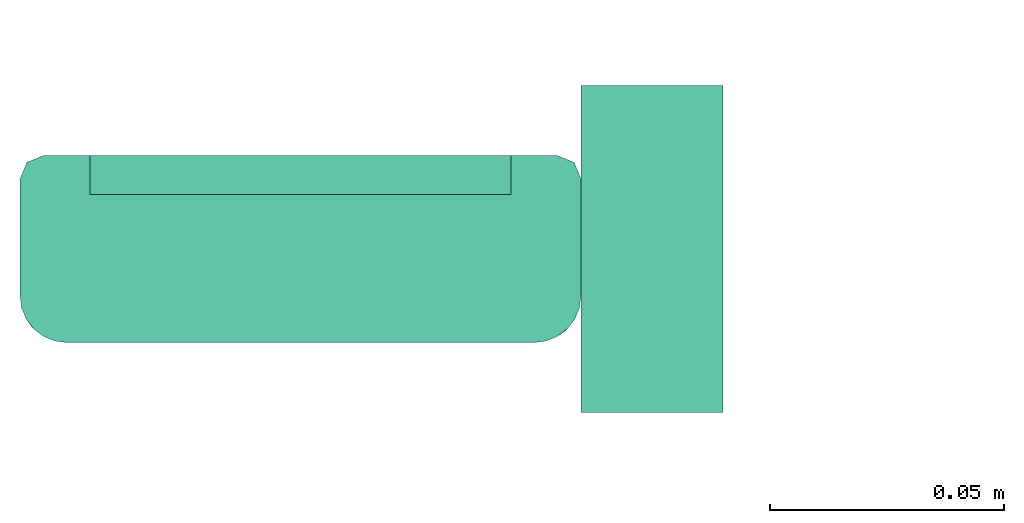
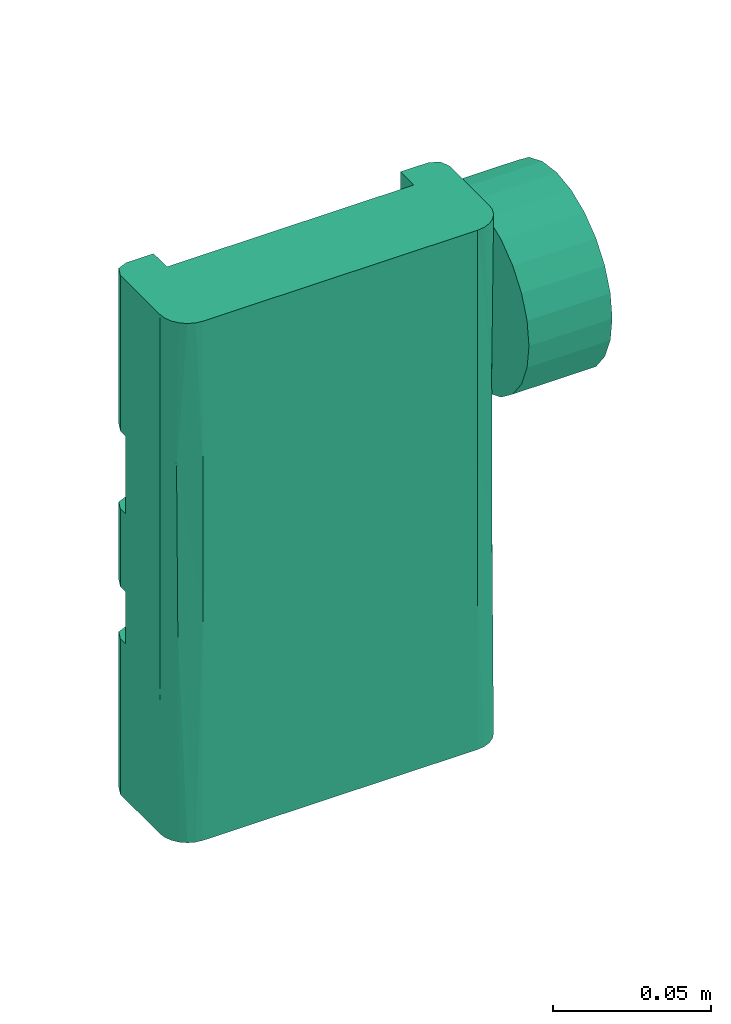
# One storey, part 164 of 166: 1 flow terminal.
"""IFC2X3 building model written with IfcOpenShell, lengths in metres."""

from ifc_helpers import new_model, entity, si_unit, converted_unit, direction, frame, origin, place, context, subcontext, project, spatial, faceted_brep, source, transform, mapped, material, material_list, type_object, type_shapes, element, save


model = new_model("IFC2X3")

# Units and contexts
model_context = context("Model", 3, precision=1e-05, world=origin(), true_north=direction((6.123233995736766e-17, 1.0)))
body_context = subcontext(model_context, "Body", "Model", "MODEL_VIEW")
ifc_project = project(units=[si_unit("LENGTHUNIT", "METRE"), converted_unit("PLANEANGLEUNIT", "DEGREE", entity("IfcPlaneAngleMeasure", 0.017453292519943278), si_unit("PLANEANGLEUNIT", "RADIAN"), dimensions=[0, 0, 0, 0, 0, 0, 0]), si_unit("AREAUNIT", "SQUARE_METRE")], contexts=[model_context])

# Site, building, storey
site_placement = place(None, origin())
site = spatial("IfcSite", under=ifc_project, at=site_placement, Name="Default", CompositionType="ELEMENT")
building_placement = place(site_placement, origin())
building = spatial("IfcBuilding", under=site, at=building_placement, Name="CASA DE ACOLHIDA PARA IDOSOS", CompositionType="ELEMENT")
storey_placement = place(building_placement, frame((0.0, 0.0, -1.7499999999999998)))
storey = spatial("IfcBuildingStorey", under=building, at=storey_placement, Name="IMPLANTAÇÃO DRENAGEM", CompositionType="ELEMENT", Elevation=-1.7499999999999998)

# Flow terminal
ifc_material_1 = material(Name="Black")
ifc_material_2 = material(Name="Blue")
ifc_material_list = material_list([ifc_material_1, ifc_material_2])
electric_appliance_type = type_object("IfcElectricApplianceType", Name="Controller_TBOS-BT:Sensor de Chuva", PredefinedType="NOTDEFINED", material=ifc_material_list)
shared_shape = source(origin(), body_context, "Body", "Brep", [
    faceted_brep([(0.054999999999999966, -0.019999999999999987, 0.06), (-0.055, -0.019999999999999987, 0.06000000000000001), (-0.05500000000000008, -0.019999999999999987, 0.03903844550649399), (-0.055, -0.019999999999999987, 0.0), (0.054999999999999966, -0.019999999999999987, 0.0), (0.054999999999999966, -0.019999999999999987, 0.02096155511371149), (0.054999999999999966, -0.019999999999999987, 0.10999999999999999), (-0.055, -0.019999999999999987, 0.11), (-0.055, -0.019999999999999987, 0.07999999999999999), (0.054999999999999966, -0.019999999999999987, 0.07999999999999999), (-0.045000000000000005, -0.019999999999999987, 0.2), (-0.05500000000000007, -0.019999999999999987, 0.19999999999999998), (-0.05500000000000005, -0.019999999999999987, 0.16096156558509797), (-0.055000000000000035, -0.019999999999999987, 0.13999999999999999), (0.010868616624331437, -0.019999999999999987, 0.13999999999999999), (0.011379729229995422, -0.019999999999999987, 0.1438822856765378), (0.012878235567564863, -0.019999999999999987, 0.1475), (0.01526201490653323, -0.019999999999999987, 0.1506066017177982), (0.01836861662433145, -0.019999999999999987, 0.15299038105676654), (0.021986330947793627, -0.019999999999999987, 0.154488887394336), (0.025868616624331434, -0.019999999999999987, 0.155), (0.02975090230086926, -0.019999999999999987, 0.154488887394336), (0.03336861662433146, -0.019999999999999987, 0.15299038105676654), (0.03647521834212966, -0.019999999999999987, 0.1506066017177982), (0.038858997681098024, -0.019999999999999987, 0.1475), (0.040357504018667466, -0.019999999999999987, 0.1438822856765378), (0.040868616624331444, -0.019999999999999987, 0.13999999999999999), (0.054999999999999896, -0.019999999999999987, 0.13999999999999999), (0.054999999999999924, -0.019999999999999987, 0.16096155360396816), (0.054999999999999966, -0.019999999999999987, 0.19999999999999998), (0.045000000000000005, -0.019999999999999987, 0.2), (0.045000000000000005, -0.019999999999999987, 0.17500000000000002), (-0.045000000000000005, -0.019999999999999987, 0.17500000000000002), (-0.05853553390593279, -0.01853553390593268, 0.0), (-0.06, -0.014999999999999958, 0.020961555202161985), (-0.06, -0.014999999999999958, 0.0), (-0.058535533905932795, -0.01853553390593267, 0.13999999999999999), (-0.058535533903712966, -0.018535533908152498, 0.16910427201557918), (-0.05853553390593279, -0.01853553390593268, 0.19999999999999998), (-0.06, -0.014999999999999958, 0.19999999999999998), (-0.06, -0.014999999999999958, 0.1609615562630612), (-0.06, -0.014999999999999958, 0.13999999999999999), (-0.06, -0.014999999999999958, 0.10999999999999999), (-0.06, -0.014999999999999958, 0.07999999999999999), (-0.058535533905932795, -0.01853553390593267, 0.07999999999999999), (-0.058535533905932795, -0.01853553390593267, 0.10999999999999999), (-0.05855559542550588, -0.018515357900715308, 0.030625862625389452), (-0.058535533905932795, -0.01853553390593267, 0.06), (-0.06, -0.014999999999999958, 0.060000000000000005), (0.05853553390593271, -0.01853553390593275, 0.0), (0.05853553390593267, -0.018535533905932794, 0.13999999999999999), (0.05853553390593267, -0.018535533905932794, 0.07999999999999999), (0.05853553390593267, -0.018535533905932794, 0.10999999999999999), (0.05853553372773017, -0.01853553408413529, 0.029104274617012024), (0.06, -0.015000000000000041, 0.02096155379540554), (0.06, -0.015000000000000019, 0.0), (0.06, -0.015000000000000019, 0.17903845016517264), (0.06, -0.015000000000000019, 0.19999999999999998), (0.05853553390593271, -0.01853553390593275, 0.19999999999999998), (0.06, -0.015000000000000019, 0.07999999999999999), (0.06, -0.015000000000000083, 0.10999999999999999), (0.05853553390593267, -0.018535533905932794, 0.06), (0.06, -0.015000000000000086, 0.06), (0.06, -0.011622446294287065, 0.06), (0.06, -0.011622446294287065, 0.07999999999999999), (-0.06, -0.011622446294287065, 0.07999999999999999), (-0.06, -0.011622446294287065, 0.06), (0.045000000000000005, -0.011622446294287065, 0.17500000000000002), (0.045000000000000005, -0.011622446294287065, 0.2), (-0.045000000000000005, -0.011622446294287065, 0.2), (-0.045000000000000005, -0.011622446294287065, 0.17500000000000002), (0.015262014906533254, -0.011622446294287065, 0.15060660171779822), (0.01287823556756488, -0.011622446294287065, 0.14750000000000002), (0.011379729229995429, -0.011622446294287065, 0.14388228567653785), (0.010868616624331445, -0.011622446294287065, 0.13999999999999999), (-0.06, -0.011622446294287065, 0.13999999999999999), (-0.06, -0.011622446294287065, 0.10999999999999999), (0.06, -0.011622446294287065, 0.10999999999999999), (0.06, -0.011622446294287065, 0.13999999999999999), (0.040868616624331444, -0.011622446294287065, 0.13999999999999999), (0.040357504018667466, -0.011622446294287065, 0.1438822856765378), (0.038858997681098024, -0.011622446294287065, 0.14749999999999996), (0.03647521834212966, -0.011622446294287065, 0.1506066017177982), (0.03336861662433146, -0.011622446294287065, 0.15299038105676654), (0.029750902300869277, -0.011622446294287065, 0.154488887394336), (0.02586861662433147, -0.011622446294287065, 0.155), (0.02198633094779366, -0.011622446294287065, 0.15448888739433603), (0.018368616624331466, -0.011622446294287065, 0.1529903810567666), (0.058515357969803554, -0.018555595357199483, 0.17062586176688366), (0.06, -0.015000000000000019, 0.13999999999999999), (0.06, 0.009999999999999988, 0.2), (0.05965925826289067, 0.012588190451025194, 0.2), (0.05866025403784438, 0.014999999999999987, 0.2), (0.057071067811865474, 0.017071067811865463, 0.2), (0.055, 0.01866025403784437, 0.2), (0.052588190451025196, 0.019659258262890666, 0.2), (0.05, 0.019999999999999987, 0.2), (-0.049999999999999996, 0.019999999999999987, 0.2), (-0.05258819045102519, 0.019659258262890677, 0.2), (-0.05499999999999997, 0.018660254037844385, 0.2), (-0.05707106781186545, 0.017071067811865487, 0.2), (-0.05866025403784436, 0.015000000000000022, 0.2), (-0.05965925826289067, 0.012588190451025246, 0.2), (-0.06, 0.00999999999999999, 0.2), (-0.05866025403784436, 0.015000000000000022, 0.0), (-0.05707106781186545, 0.017071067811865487, 0.0), (-0.05499999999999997, 0.018660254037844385, 0.0), (-0.05258819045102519, 0.019659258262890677, 0.0), (-0.05000000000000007, 0.019999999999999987, 0.0), (0.05, 0.019999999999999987, 0.0), (0.052588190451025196, 0.019659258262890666, 0.0), (0.055, 0.01866025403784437, 0.0), (0.057071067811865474, 0.017071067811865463, 0.0), (0.05866025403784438, 0.014999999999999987, 0.0), (0.05965925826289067, 0.012588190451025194, 0.0), (0.06, 0.010000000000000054, 0.0), (-0.06, 0.01000000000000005, 0.0), (-0.05965925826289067, 0.012588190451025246, 0.0), (0.05, 0.019999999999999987, 0.1447913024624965), (0.05, 0.019999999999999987, 0.08958260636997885), (-0.049999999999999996, 0.019999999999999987, 0.05520869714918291), (-0.049999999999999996, 0.019999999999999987, 0.11041739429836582), (-0.05644929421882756, 0.01764242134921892, 0.1415270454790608), (-0.06, 0.010000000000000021, 0.08958260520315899), (-0.06, 0.010000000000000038, 0.1447913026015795), (-0.056745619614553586, 0.017382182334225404, 0.08281305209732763), (0.06, 0.009999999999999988, 0.055208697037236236), (0.06, 0.009999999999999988, 0.11041739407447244), (0.05738218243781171, 0.016745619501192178, 0.08281305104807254), (0.057642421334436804, 0.016449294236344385, 0.1415270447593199)], [[[0, 1, 2, 3, 4, 5]], [[6, 7, 8, 9]], [[10, 11, 12, 13, 14, 15, 16, 17, 18, 19, 20, 21, 22, 23, 24, 25, 26, 27, 28, 29, 30, 31, 32]], [[33, 34, 35]], [[36, 37, 38, 39, 40, 41]], [[42, 43, 44, 45]], [[46, 2, 47]], [[46, 33, 3]], [[3, 2, 46]], [[48, 34, 46]], [[33, 46, 34]], [[2, 1, 47]], [[12, 11, 38, 37, 36, 13]], [[44, 8, 7, 45]], [[48, 46, 47]], [[49, 5, 4]], [[50, 28, 27]], [[6, 9, 51, 52]], [[0, 5, 53]], [[54, 49, 55]], [[56, 57, 58]], [[51, 59, 60, 52]], [[53, 49, 54]], [[0, 53, 61]], [[61, 53, 62]], [[62, 53, 54]], [[53, 5, 49]], [[63, 64, 65, 66]], [[67, 68, 69, 70]], [[71, 72, 73, 74, 75, 76, 77, 78, 79, 80, 81, 82, 83, 84, 85, 86, 87]], [[88, 56, 58]], [[88, 50, 89]], [[89, 56, 88]], [[50, 88, 28]], [[29, 88, 58]], [[29, 28, 88]], [[36, 41, 75, 74, 14, 13]], [[79, 78, 89, 50, 27, 26]], [[90, 91, 92, 93, 94, 95, 96, 97, 98, 99, 100, 101, 102, 103, 39, 38, 11, 10, 69, 68, 30, 29, 58, 57]], [[104, 105, 106, 107, 108, 109, 110, 111, 112, 113, 114, 115, 55, 49, 4, 3, 33, 35, 116, 117]], [[96, 118, 119, 109, 108, 120, 121, 97]], [[122, 123, 124]], [[99, 122, 100]], [[98, 97, 122]], [[121, 120, 125]], [[106, 105, 125]], [[106, 120, 107]], [[123, 125, 117]], [[97, 121, 122]], [[99, 98, 122]], [[125, 105, 104]], [[125, 120, 106]], [[117, 116, 123]], [[103, 102, 124]], [[100, 122, 101]], [[124, 101, 122]], [[122, 125, 123]], [[101, 124, 102]], [[121, 125, 122]], [[104, 117, 125]], [[108, 107, 120]], [[103, 124, 123, 116, 35, 34, 48, 66, 65, 43, 42, 76, 75, 41, 40, 39]], [[78, 77, 60, 59, 64, 63, 62, 54, 55, 115, 126, 127, 90, 57, 56, 89]], [[127, 126, 128]], [[129, 119, 118]], [[113, 112, 128]], [[111, 128, 112]], [[118, 94, 129]], [[94, 118, 95]], [[90, 129, 91]], [[90, 127, 129]], [[110, 119, 128]], [[113, 126, 114]], [[110, 109, 119]], [[118, 96, 95]], [[111, 110, 128]], [[92, 129, 93]], [[127, 128, 129]], [[129, 128, 119]], [[128, 126, 113]], [[114, 126, 115]], [[94, 93, 129]], [[92, 91, 129]], [[9, 8, 44, 43, 65, 64, 59, 51]], [[66, 48, 47, 1, 0, 61, 62, 63]], [[76, 42, 45, 7, 6, 52, 60, 77]], [[70, 32, 31, 67]], [[68, 67, 31, 30]], [[70, 69, 10, 32]], [[79, 26, 25, 80]], [[80, 25, 24, 81]], [[83, 82, 23, 22]], [[23, 82, 81, 24]], [[84, 83, 22, 21]], [[84, 21, 20, 85]], [[85, 20, 19, 86]], [[86, 19, 18, 87]], [[72, 71, 17, 16]], [[17, 71, 87, 18]], [[73, 72, 16, 15]], [[73, 15, 14, 74]]]),
    faceted_brep([(0.0308686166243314, -0.019999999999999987, 0.13133974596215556), (0.03293968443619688, -0.019999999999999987, 0.13292893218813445), (0.034528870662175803, -0.019999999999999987, 0.13499999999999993), (0.03552787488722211, -0.019999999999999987, 0.13741180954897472), (0.03586861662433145, -0.019999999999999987, 0.13999999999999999), (0.03552787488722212, -0.019999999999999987, 0.1425881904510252), (0.03452887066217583, -0.019999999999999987, 0.145), (0.03293968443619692, -0.019999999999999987, 0.14707106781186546), (0.030868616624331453, -0.019999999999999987, 0.14866025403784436), (0.028456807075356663, -0.019999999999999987, 0.14965925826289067), (0.02586861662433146, -0.019999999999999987, 0.14999999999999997), (0.023280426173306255, -0.019999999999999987, 0.14965925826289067), (0.02086861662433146, -0.019999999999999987, 0.14866025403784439), (0.018797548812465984, -0.019999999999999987, 0.14707106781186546), (0.017208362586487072, -0.019999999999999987, 0.145), (0.01620935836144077, -0.019999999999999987, 0.14258819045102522), (0.015868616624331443, -0.019999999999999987, 0.14), (0.016209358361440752, -0.019999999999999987, 0.1374118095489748), (0.017208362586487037, -0.019999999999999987, 0.135), (0.018797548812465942, -0.019999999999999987, 0.13292893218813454), (0.02086861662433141, -0.019999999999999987, 0.1313397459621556), (0.023280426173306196, -0.019999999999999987, 0.13034074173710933), (0.025868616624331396, -0.019999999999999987, 0.12999999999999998), (0.028456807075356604, -0.019999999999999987, 0.13034074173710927), (0.02586861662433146, -0.011622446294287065, 0.14999999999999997), (0.028456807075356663, -0.011622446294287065, 0.14965925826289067), (0.030868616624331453, -0.011622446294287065, 0.14866025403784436), (0.03293968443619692, -0.011622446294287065, 0.14707106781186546), (0.03452887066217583, -0.011622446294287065, 0.145), (0.03552787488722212, -0.011622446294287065, 0.1425881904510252), (0.03586861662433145, -0.011622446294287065, 0.13999999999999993), (0.03552787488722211, -0.011622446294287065, 0.13741180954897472), (0.034528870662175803, -0.011622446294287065, 0.13499999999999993), (0.03293968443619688, -0.011622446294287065, 0.13292893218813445), (0.0308686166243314, -0.011622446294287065, 0.13133974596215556), (0.028456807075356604, -0.011622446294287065, 0.13034074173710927), (0.025868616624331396, -0.011622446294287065, 0.12999999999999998), (0.023280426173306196, -0.011622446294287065, 0.13034074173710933), (0.02086861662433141, -0.011622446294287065, 0.1313397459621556), (0.018797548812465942, -0.011622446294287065, 0.13292893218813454), (0.017208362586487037, -0.011622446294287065, 0.135), (0.016209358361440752, -0.011622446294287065, 0.1374118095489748), (0.015868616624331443, -0.011622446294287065, 0.14), (0.01620935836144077, -0.011622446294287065, 0.14258819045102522), (0.017208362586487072, -0.011622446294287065, 0.145), (0.018797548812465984, -0.011622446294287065, 0.14707106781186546), (0.02086861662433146, -0.011622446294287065, 0.14866025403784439), (0.023280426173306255, -0.011622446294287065, 0.14965925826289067)], [[[0, 1, 2, 3, 4, 5, 6, 7, 8, 9, 10, 11, 12, 13, 14, 15, 16, 17, 18, 19, 20, 21, 22, 23]], [[24, 25, 26, 27, 28, 29, 30, 31, 32, 33, 34, 35, 36, 37, 38, 39, 40, 41, 42, 43, 44, 45, 46, 47]], [[41, 17, 16, 42]], [[40, 18, 17, 41]], [[20, 19, 39, 38]], [[40, 39, 19, 18]], [[21, 20, 38, 37]], [[22, 21, 37, 36]], [[35, 23, 22, 36]], [[34, 0, 23, 35]], [[2, 1, 33, 32]], [[34, 33, 1, 0]], [[3, 2, 32, 31]], [[4, 3, 31, 30]], [[29, 5, 4, 30]], [[28, 6, 5, 29]], [[8, 7, 27, 26]], [[28, 27, 7, 6]], [[9, 8, 26, 25]], [[10, 9, 25, 24]], [[47, 11, 10, 24]], [[46, 12, 11, 47]], [[14, 13, 45, 44]], [[46, 45, 13, 12]], [[15, 14, 44, 43]], [[16, 15, 43, 42]]]),
    faceted_brep([(-0.05999999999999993, 0.017499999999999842, 0.13064586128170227), (-0.05999999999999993, 0.024748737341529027, 0.1362080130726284), (-0.05999999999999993, 0.03031088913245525, 0.1434567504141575), (-0.05999999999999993, 0.03380740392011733, 0.15189808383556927), (-0.05999999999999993, 0.035, 0.1609567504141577), (-0.05999999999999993, 0.03380740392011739, 0.17001541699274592), (-0.05999999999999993, 0.030310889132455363, 0.17845675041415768), (-0.05999999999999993, 0.024748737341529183, 0.18570548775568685), (-0.05999999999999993, 0.017500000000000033, 0.19126763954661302), (-0.05999999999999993, 0.009058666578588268, 0.19476415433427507), (-0.05999999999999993, 0.0, 0.1959567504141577), (-0.05999999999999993, -0.009058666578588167, 0.1947641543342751), (-0.05999999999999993, -0.017499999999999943, 0.1912676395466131), (-0.05999999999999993, -0.02474873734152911, 0.1857054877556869), (-0.05999999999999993, -0.030310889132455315, 0.1784567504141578), (-0.05999999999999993, -0.03380740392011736, 0.17001541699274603), (-0.05999999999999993, -0.035, 0.1609567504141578), (-0.05999999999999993, -0.033807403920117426, 0.15189808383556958), (-0.05999999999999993, -0.030310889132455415, 0.1434567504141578), (-0.05999999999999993, -0.024748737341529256, 0.13620801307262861), (-0.05999999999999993, -0.01750000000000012, 0.1306458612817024), (-0.05999999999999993, -0.009058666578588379, 0.12714934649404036), (-0.05999999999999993, 0.0, 0.12595675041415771), (-0.05999999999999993, 0.009058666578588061, 0.12714934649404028), (-0.09034046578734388, 0.0, 0.1959567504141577), (-0.09034046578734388, 0.009058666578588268, 0.19476415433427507), (-0.09034046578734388, 0.017500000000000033, 0.19126763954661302), (-0.09034046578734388, 0.024748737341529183, 0.18570548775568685), (-0.09034046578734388, 0.030310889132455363, 0.17845675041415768), (-0.09034046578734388, 0.03380740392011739, 0.17001541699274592), (-0.09034046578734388, 0.035, 0.1609567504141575), (-0.09034046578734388, 0.03380740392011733, 0.15189808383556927), (-0.09034046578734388, 0.03031088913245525, 0.1434567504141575), (-0.09034046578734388, 0.024748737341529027, 0.1362080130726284), (-0.09034046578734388, 0.017499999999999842, 0.13064586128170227), (-0.09034046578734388, 0.009058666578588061, 0.12714934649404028), (-0.09034046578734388, 0.0, 0.12595675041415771), (-0.09034046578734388, -0.009058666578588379, 0.12714934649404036), (-0.09034046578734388, -0.01750000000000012, 0.1306458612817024), (-0.09034046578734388, -0.024748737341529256, 0.13620801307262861), (-0.09034046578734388, -0.030310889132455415, 0.1434567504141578), (-0.09034046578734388, -0.033807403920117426, 0.15189808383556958), (-0.09034046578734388, -0.035, 0.1609567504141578), (-0.09034046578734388, -0.03380740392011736, 0.17001541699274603), (-0.09034046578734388, -0.030310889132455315, 0.1784567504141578), (-0.09034046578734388, -0.02474873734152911, 0.1857054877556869), (-0.09034046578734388, -0.017499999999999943, 0.1912676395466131), (-0.09034046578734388, -0.009058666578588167, 0.1947641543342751)], [[[0, 1, 2, 3, 4, 5, 6, 7, 8, 9, 10, 11, 12, 13, 14, 15, 16, 17, 18, 19, 20, 21, 22, 23]], [[24, 25, 26, 27, 28, 29, 30, 31, 32, 33, 34, 35, 36, 37, 38, 39, 40, 41, 42, 43, 44, 45, 46, 47]], [[41, 17, 16, 42]], [[40, 18, 17, 41]], [[20, 19, 39, 38]], [[40, 39, 19, 18]], [[21, 20, 38, 37]], [[22, 21, 37, 36]], [[23, 22, 36, 35]], [[34, 0, 23, 35]], [[2, 32, 31, 3]], [[3, 31, 30, 4]], [[34, 33, 1, 0]], [[33, 32, 2, 1]], [[29, 5, 4, 30]], [[28, 6, 5, 29]], [[8, 7, 27, 26]], [[28, 27, 7, 6]], [[9, 8, 26, 25]], [[10, 9, 25, 24]], [[12, 46, 45, 13]], [[14, 44, 43, 15]], [[45, 44, 14, 13]], [[15, 43, 42, 16]], [[11, 47, 46, 12]], [[47, 11, 10, 24]]]),
])
type_shapes(electric_appliance_type, [shared_shape])
flow_terminal_placement = place(storey_placement, frame((-65.39042890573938, 7.25391725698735, 2.0), z_axis=(0.0, 0.0, 1.0), x_axis=(-1.0, 0.0, 0.0)))
element("IfcFlowTerminal", 1, at=flow_terminal_placement, inside=storey, type_object=electric_appliance_type, material=ifc_material_list, Name="Controller_TBOS-BT:Sensor de Chuva", ObjectType="Controller_TBOS-BT:Sensor de Chuva", context=body_context, shape_type="MappedRepresentation", body=[
    mapped(shared_shape, transform((0.0, 0.0, 0.0), scale=1.0)),
])

save(model, "model.ifc")
